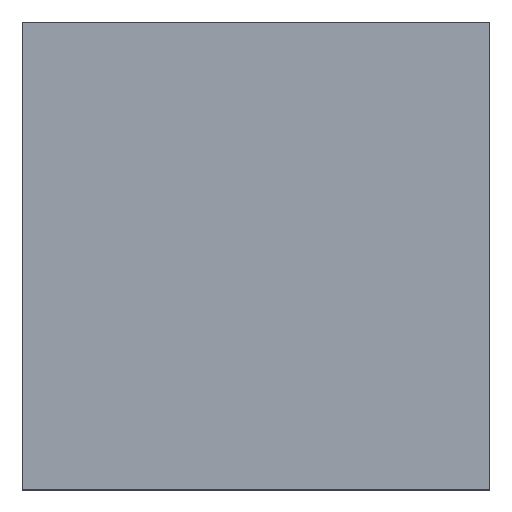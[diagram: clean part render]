
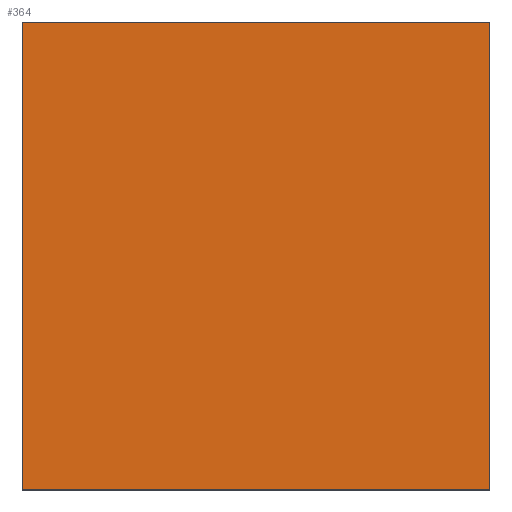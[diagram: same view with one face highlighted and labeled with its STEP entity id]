
A CAD part, top view. The second image highlights one B-rep face of the part: STEP entity #364.
In plain terms, the highlighted planar face has unit normal (0, 0, 1).
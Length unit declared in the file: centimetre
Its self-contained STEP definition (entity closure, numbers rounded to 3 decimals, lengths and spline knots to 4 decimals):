
#7 = ORIENTED_EDGE ( 'NONE', *, *, #79, .T. ) ;
#33 = DIRECTION ( 'NONE',  ( 0., 1., 0. ) ) ;
#50 = DIRECTION ( 'NONE',  ( 0., -1., 0. ) ) ;
#67 = VECTOR ( 'NONE', #50, 100. ) ;
#79 = EDGE_CURVE ( 'NONE', #662, #472, #468, .T. ) ;
#86 = AXIS2_PLACEMENT_3D ( 'NONE', #454, #159, #399 ) ;
#95 = CARTESIAN_POINT ( 'NONE',  ( 1000., 1000., 1000. ) ) ;
#102 = CARTESIAN_POINT ( 'NONE',  ( 0., 1000., 1000. ) ) ;
#135 = CARTESIAN_POINT ( 'NONE',  ( 0., 1000., 1000. ) ) ;
#159 = DIRECTION ( 'NONE',  ( 0., 0., 1. ) ) ;
#211 = PLANE ( 'NONE',  #86 ) ;
#214 = LINE ( 'NONE', #568, #271 ) ;
#231 = ORIENTED_EDGE ( 'NONE', *, *, #328, .T. ) ;
#260 = ORIENTED_EDGE ( 'NONE', *, *, #395, .T. ) ;
#269 = CARTESIAN_POINT ( 'NONE',  ( 0., 1000., 1000. ) ) ;
#271 = VECTOR ( 'NONE', #451, 100. ) ;
#328 = EDGE_CURVE ( 'NONE', #670, #723, #329, .T. ) ;
#329 = LINE ( 'NONE', #95, #615 ) ;
#364 = ADVANCED_FACE ( 'NONE', ( #740 ), #211, .T. ) ;
#366 = CARTESIAN_POINT ( 'NONE',  ( 0., 0., 1000. ) ) ;
#394 = CARTESIAN_POINT ( 'NONE',  ( 1000., 0., 1000. ) ) ;
#395 = EDGE_CURVE ( 'NONE', #472, #670, #214, .T. ) ;
#399 = DIRECTION ( 'NONE',  ( 1., 0., 0. ) ) ;
#451 = DIRECTION ( 'NONE',  ( 1., 0., 0. ) ) ;
#454 = CARTESIAN_POINT ( 'NONE',  ( 0., 0., 1000. ) ) ;
#468 = LINE ( 'NONE', #102, #67 ) ;
#472 = VERTEX_POINT ( 'NONE', #366 ) ;
#500 = EDGE_LOOP ( 'NONE', ( #7, #260, #231, #751 ) ) ;
#503 = CARTESIAN_POINT ( 'NONE',  ( 1000., 1000., 1000. ) ) ;
#568 = CARTESIAN_POINT ( 'NONE',  ( 0., 0., 1000. ) ) ;
#615 = VECTOR ( 'NONE', #33, 100. ) ;
#626 = LINE ( 'NONE', #269, #704 ) ;
#662 = VERTEX_POINT ( 'NONE', #135 ) ;
#670 = VERTEX_POINT ( 'NONE', #394 ) ;
#704 = VECTOR ( 'NONE', #753, 100. ) ;
#707 = EDGE_CURVE ( 'NONE', #723, #662, #626, .T. ) ;
#723 = VERTEX_POINT ( 'NONE', #503 ) ;
#740 = FACE_OUTER_BOUND ( 'NONE', #500, .T. ) ;
#751 = ORIENTED_EDGE ( 'NONE', *, *, #707, .T. ) ;
#753 = DIRECTION ( 'NONE',  ( -1., 0., 0. ) ) ;
